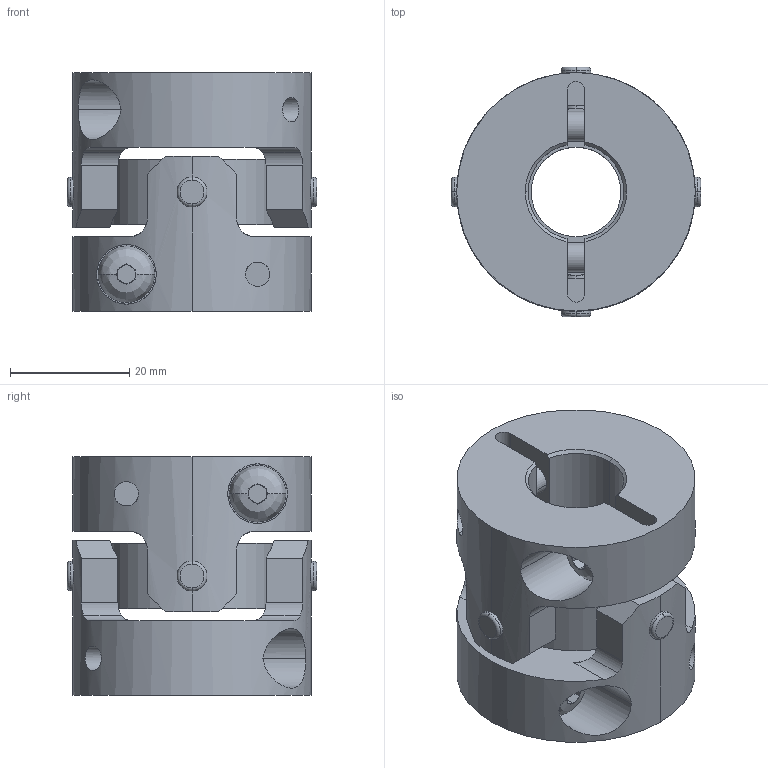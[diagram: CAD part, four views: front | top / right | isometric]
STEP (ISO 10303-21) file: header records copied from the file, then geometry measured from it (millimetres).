
FILE_DESCRIPTION((''),'2;1');
FILE_NAME('UA-40C-16×16.stp','2013-05-22T09:27:34',(''),(''),'AutoCAD STEP 2000i','AutoCAD 2000i',', , ');
FILE_SCHEMA(('CONFIG_CONTROL_DESIGN'));
Length unit declared in the file: millimetre
Products named in the file (6): UA-40C-8×8; 忣兜1; UA-4002-D08-1; BTN-M5; UA-4002-D08; UA40-SEN
Assembly tree (6 placements, depth 3):
  UA-40C-8×8
    忣兜1
    UA-4002-D08-1
      BTN-M5
    UA-4002-D08
      BTN-M5
    UA40-SEN
Bounding box: 41.81 x 41.81 x 40 mm (x, y, z)
Volume: 32043.4 mm3; surface area: 15377.5 mm2
Topology: 1 solids, 1 shells, 250 faces, 646 edges, 408 vertices
Faces by surface type: plane 122, cylinder 96, cone 16, bspline 8, torus 8
Entity records: 9627 total; most frequent: CARTESIAN_POINT 3371, ORIENTED_EDGE 1292, DIRECTION 1288, EDGE_CURVE 646, AXIS2_PLACEMENT_3D 497, VERTEX_POINT 408, VECTOR 294, LINE 294
